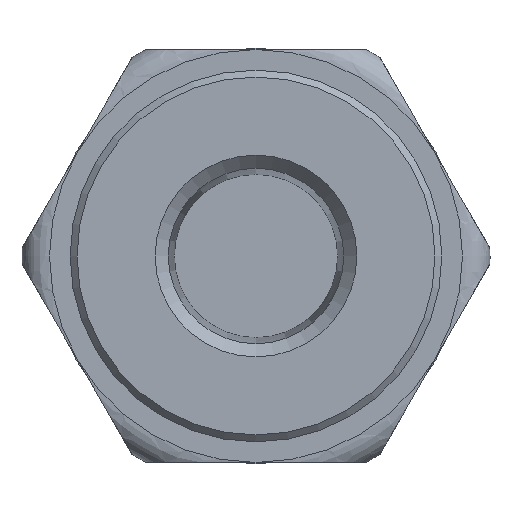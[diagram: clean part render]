
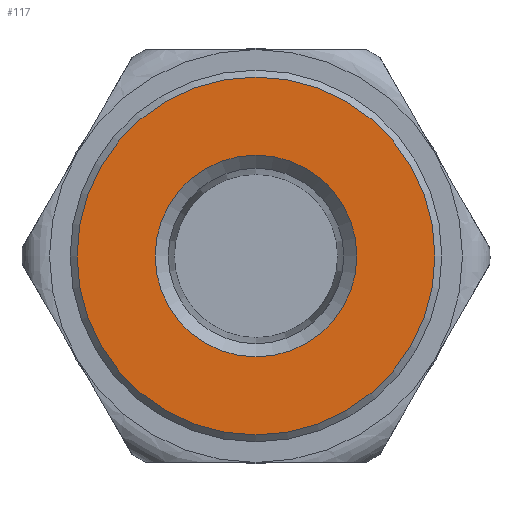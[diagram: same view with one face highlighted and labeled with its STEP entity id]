
A CAD part, front view. The second image highlights one B-rep face of the part: STEP entity #117.
In plain terms, the highlighted planar face has unit normal (0, -1, 0).
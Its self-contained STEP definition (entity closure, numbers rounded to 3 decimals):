
#117 = ADVANCED_FACE( '', ( #238, #239 ), #240, .F. );
#238 = FACE_BOUND( '', #418, .T. );
#239 = FACE_OUTER_BOUND( '', #419, .T. );
#240 = PLANE( '', #420 );
#418 = EDGE_LOOP( '', ( #819 ) );
#419 = EDGE_LOOP( '', ( #820 ) );
#420 = AXIS2_PLACEMENT_3D( '', #821, #822, #823 );
#819 = ORIENTED_EDGE( '', *, *, #1122, .F. );
#820 = ORIENTED_EDGE( '', *, *, #1123, .T. );
#821 = CARTESIAN_POINT( '', ( 13., 0., 0. ) );
#822 = DIRECTION( '', ( 0., 1., 0. ) );
#823 = DIRECTION( '', ( 0., 0., 1. ) );
#1122 = EDGE_CURVE( '', #1333, #1333, #1334, .F. );
#1123 = EDGE_CURVE( '', #1335, #1335, #1336, .T. );
#1333 = VERTEX_POINT( '', #2043 );
#1334 = CIRCLE( '', #2044, 7.33 );
#1335 = VERTEX_POINT( '', #2045 );
#1336 = CIRCLE( '', #2046, 13. );
#2043 = CARTESIAN_POINT( '', ( 0., 0., 7.33 ) );
#2044 = AXIS2_PLACEMENT_3D( '', #2249, #2250, #2251 );
#2045 = CARTESIAN_POINT( '', ( 0., 0., -13. ) );
#2046 = AXIS2_PLACEMENT_3D( '', #2252, #2253, #2254 );
#2249 = CARTESIAN_POINT( '', ( 0., 0., 0. ) );
#2250 = DIRECTION( '', ( 0., 1., 0. ) );
#2251 = DIRECTION( '', ( 0., 0., 1. ) );
#2252 = CARTESIAN_POINT( '', ( 0., 0., 0. ) );
#2253 = DIRECTION( '', ( 0., -1., 0. ) );
#2254 = DIRECTION( '', ( 0., 0., -1. ) );
